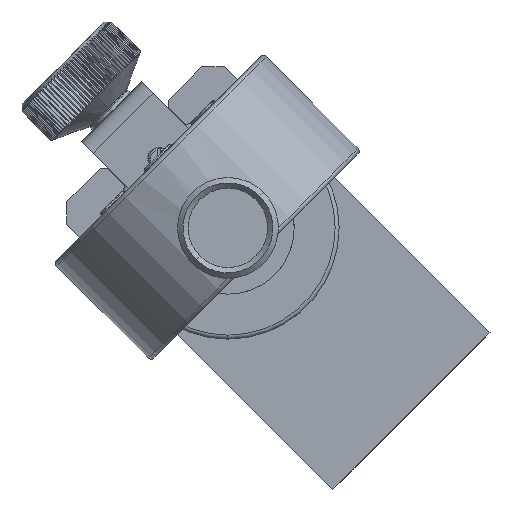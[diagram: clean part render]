
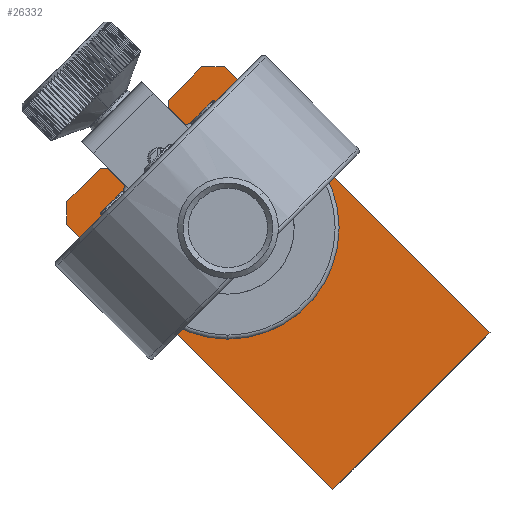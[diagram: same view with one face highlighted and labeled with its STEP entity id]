
A CAD part, front view. The second image highlights one B-rep face of the part: STEP entity #26332.
In plain terms, the highlighted planar face has unit normal (0, -1, 0).
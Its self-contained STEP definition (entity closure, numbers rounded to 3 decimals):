
#25505=CARTESIAN_POINT('Vertex',(641.2,406.106,369.327)) ;
#25508=CARTESIAN_POINT('Line Origine',(626.351,406.106,354.478)) ;
#25512=CARTESIAN_POINT('Vertex',(611.502,406.106,339.628)) ;
#25703=CARTESIAN_POINT('Vertex',(561.297,406.106,389.833)) ;
#25706=CARTESIAN_POINT('Line Origine',(586.399,406.106,364.731)) ;
#25727=CARTESIAN_POINT('Vertex',(569.005,406.106,400.369)) ;
#25730=CARTESIAN_POINT('Line Origine',(571.479,406.106,397.894)) ;
#25734=CARTESIAN_POINT('Vertex',(573.954,406.106,395.419)) ;
#25894=CARTESIAN_POINT('Vertex',(600.917,406.106,394.16)) ;
#25897=CARTESIAN_POINT('Axis2P3D Location',(591.703,406.106,389.126)) ;
#25901=CARTESIAN_POINT('Vertex',(582.488,406.106,384.092)) ;
#25952=CARTESIAN_POINT('Axis2P3D Location',(591.703,406.106,389.126)) ;
#26067=CARTESIAN_POINT('Line Origine',(568.297,406.106,400.369)) ;
#26071=CARTESIAN_POINT('Vertex',(567.59,406.106,400.369)) ;
#26091=CARTESIAN_POINT('Line Origine',(579.682,406.106,401.147)) ;
#26095=CARTESIAN_POINT('Vertex',(585.409,406.106,406.874)) ;
#26123=CARTESIAN_POINT('Vertex',(580.46,406.106,411.824)) ;
#26126=CARTESIAN_POINT('Line Origine',(582.935,406.106,409.349)) ;
#26143=CARTESIAN_POINT('Line Origine',(580.46,406.106,412.531)) ;
#26147=CARTESIAN_POINT('Vertex',(580.46,406.106,413.238)) ;
#26167=CARTESIAN_POINT('Line Origine',(564.444,406.106,397.222)) ;
#26171=CARTESIAN_POINT('Vertex',(586.753,406.106,419.531)) ;
#26191=CARTESIAN_POINT('Line Origine',(588.874,406.106,419.531)) ;
#26195=CARTESIAN_POINT('Vertex',(590.996,406.106,419.531)) ;
#26215=CARTESIAN_POINT('Line Origine',(561.297,406.106,391.954)) ;
#26219=CARTESIAN_POINT('Vertex',(561.297,406.106,394.076)) ;
#26234=CARTESIAN_POINT('Line Origine',(564.444,406.106,397.222)) ;
#26304=CARTESIAN_POINT('Axis2P3D Location',(588.874,406.106,391.954)) ;
#26309=CARTESIAN_POINT('Line Origine',(616.098,406.106,394.429)) ;
#25509=DIRECTION('Vector Direction',(-0.707,0.,-0.707)) ;
#25707=DIRECTION('Vector Direction',(0.707,0.,-0.707)) ;
#25731=DIRECTION('Vector Direction',(0.707,0.,-0.707)) ;
#25898=DIRECTION('Axis2P3D Direction',(0.,-1.,0.)) ;
#25953=DIRECTION('Axis2P3D Direction',(0.,-1.,0.)) ;
#26068=DIRECTION('Vector Direction',(1.,0.,0.)) ;
#26092=DIRECTION('Vector Direction',(-0.707,0.,-0.707)) ;
#26127=DIRECTION('Vector Direction',(0.707,0.,-0.707)) ;
#26144=DIRECTION('Vector Direction',(0.,0.,-1.)) ;
#26168=DIRECTION('Vector Direction',(0.707,0.,0.707)) ;
#26192=DIRECTION('Vector Direction',(1.,0.,0.)) ;
#26216=DIRECTION('Vector Direction',(0.,0.,1.)) ;
#26235=DIRECTION('Vector Direction',(0.707,0.,0.707)) ;
#26305=DIRECTION('Axis2P3D Direction',(0.,-1.,0.)) ;
#26306=DIRECTION('Axis2P3D XDirection',(-0.707,0.,0.707)) ;
#26310=DIRECTION('Vector Direction',(0.707,0.,-0.707)) ;
#25899=AXIS2_PLACEMENT_3D('Circle Axis2P3D',#25897,#25898,$) ;
#25954=AXIS2_PLACEMENT_3D('Circle Axis2P3D',#25952,#25953,$) ;
#26307=AXIS2_PLACEMENT_3D('Plane Axis2P3D',#26304,#26305,#26306) ;
#26315=ORIENTED_EDGE('',*,*,#26238,.T.) ;
#26316=ORIENTED_EDGE('',*,*,#26221,.F.) ;
#26317=ORIENTED_EDGE('',*,*,#25710,.T.) ;
#26318=ORIENTED_EDGE('',*,*,#25514,.T.) ;
#26319=ORIENTED_EDGE('',*,*,#26313,.F.) ;
#26320=ORIENTED_EDGE('',*,*,#26197,.F.) ;
#26321=ORIENTED_EDGE('',*,*,#26173,.T.) ;
#26322=ORIENTED_EDGE('',*,*,#26149,.F.) ;
#26323=ORIENTED_EDGE('',*,*,#26130,.T.) ;
#26324=ORIENTED_EDGE('',*,*,#26097,.T.) ;
#26325=ORIENTED_EDGE('',*,*,#25736,.F.) ;
#26326=ORIENTED_EDGE('',*,*,#26073,.F.) ;
#26329=ORIENTED_EDGE('',*,*,#25956,.F.) ;
#26330=ORIENTED_EDGE('',*,*,#25903,.F.) ;
#26331=FACE_BOUND('',#26328,.T.) ;
#25510=VECTOR('Line Direction',#25509,1.) ;
#25708=VECTOR('Line Direction',#25707,1.) ;
#25732=VECTOR('Line Direction',#25731,1.) ;
#26069=VECTOR('Line Direction',#26068,1.) ;
#26093=VECTOR('Line Direction',#26092,1.) ;
#26128=VECTOR('Line Direction',#26127,1.) ;
#26145=VECTOR('Line Direction',#26144,1.) ;
#26169=VECTOR('Line Direction',#26168,1.) ;
#26193=VECTOR('Line Direction',#26192,1.) ;
#26217=VECTOR('Line Direction',#26216,1.) ;
#26236=VECTOR('Line Direction',#26235,1.) ;
#26311=VECTOR('Line Direction',#26310,1.) ;
#26332=ADVANCED_FACE('Produkt1.5\\Messuhrhalter_gerade.2\\Hauptk\X2\00F6\X0\rper',(#26327,#26331),#26308,.T.) ;
#25900=CIRCLE('generated circle',#25899,10.5) ;
#25955=CIRCLE('generated circle',#25954,10.5) ;
#25514=EDGE_CURVE('',#25513,#25506,#25511,.F.) ;
#25710=EDGE_CURVE('',#25704,#25513,#25709,.T.) ;
#25736=EDGE_CURVE('',#25728,#25735,#25733,.T.) ;
#25903=EDGE_CURVE('',#25895,#25902,#25900,.T.) ;
#25956=EDGE_CURVE('',#25902,#25895,#25955,.T.) ;
#26073=EDGE_CURVE('',#26072,#25728,#26070,.T.) ;
#26097=EDGE_CURVE('',#26096,#25735,#26094,.T.) ;
#26130=EDGE_CURVE('',#26124,#26096,#26129,.T.) ;
#26149=EDGE_CURVE('',#26124,#26148,#26146,.F.) ;
#26173=EDGE_CURVE('',#26172,#26148,#26170,.F.) ;
#26197=EDGE_CURVE('',#26172,#26196,#26194,.T.) ;
#26221=EDGE_CURVE('',#25704,#26220,#26218,.T.) ;
#26238=EDGE_CURVE('',#26072,#26220,#26237,.F.) ;
#26313=EDGE_CURVE('',#26196,#25506,#26312,.T.) ;
#26314=EDGE_LOOP('',(#26315,#26316,#26317,#26318,#26319,#26320,#26321,#26322,#26323,#26324,#26325,#26326)) ;
#26328=EDGE_LOOP('',(#26329,#26330)) ;
#26327=FACE_OUTER_BOUND('',#26314,.T.) ;
#25511=LINE('Line',#25508,#25510) ;
#25709=LINE('Line',#25706,#25708) ;
#25733=LINE('Line',#25730,#25732) ;
#26070=LINE('Line',#26067,#26069) ;
#26094=LINE('Line',#26091,#26093) ;
#26129=LINE('Line',#26126,#26128) ;
#26146=LINE('Line',#26143,#26145) ;
#26170=LINE('Line',#26167,#26169) ;
#26194=LINE('Line',#26191,#26193) ;
#26218=LINE('Line',#26215,#26217) ;
#26237=LINE('Line',#26234,#26236) ;
#26312=LINE('Line',#26309,#26311) ;
#26308=PLANE('Plane',#26307) ;
#25506=VERTEX_POINT('',#25505) ;
#25513=VERTEX_POINT('',#25512) ;
#25704=VERTEX_POINT('',#25703) ;
#25728=VERTEX_POINT('',#25727) ;
#25735=VERTEX_POINT('',#25734) ;
#25895=VERTEX_POINT('',#25894) ;
#25902=VERTEX_POINT('',#25901) ;
#26072=VERTEX_POINT('',#26071) ;
#26096=VERTEX_POINT('',#26095) ;
#26124=VERTEX_POINT('',#26123) ;
#26148=VERTEX_POINT('',#26147) ;
#26172=VERTEX_POINT('',#26171) ;
#26196=VERTEX_POINT('',#26195) ;
#26220=VERTEX_POINT('',#26219) ;
